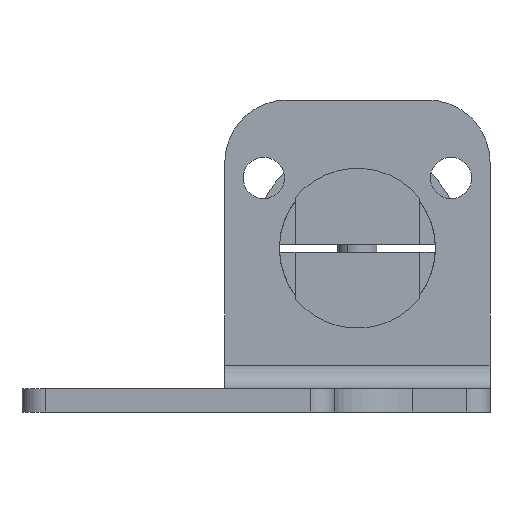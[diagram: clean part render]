
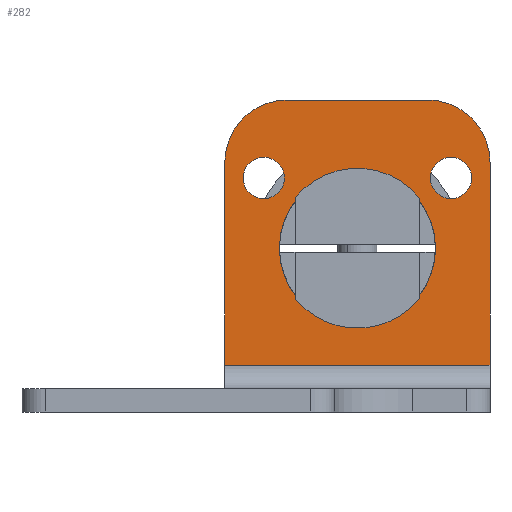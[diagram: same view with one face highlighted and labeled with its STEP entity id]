
A CAD part, left-side view. The second image highlights one B-rep face of the part: STEP entity #282.
In plain terms, the highlighted planar face has unit normal (-1, 0, 0).
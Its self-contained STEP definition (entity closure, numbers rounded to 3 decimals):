
#282 = ADVANCED_FACE( '', ( #446, #447, #448, #449 ), #450, .T. );
#446 = FACE_BOUND( '', #770, .T. );
#447 = FACE_BOUND( '', #771, .T. );
#448 = FACE_BOUND( '', #772, .T. );
#449 = FACE_OUTER_BOUND( '', #773, .T. );
#450 = PLANE( '', #774 );
#770 = EDGE_LOOP( '', ( #1173, #1174 ) );
#771 = EDGE_LOOP( '', ( #1175, #1176 ) );
#772 = EDGE_LOOP( '', ( #1177, #1178 ) );
#773 = EDGE_LOOP( '', ( #1179, #1180, #1181, #1182, #1183, #1184 ) );
#774 = AXIS2_PLACEMENT_3D( '', #1185, #1186, #1187 );
#1173 = ORIENTED_EDGE( '', *, *, #2288, .F. );
#1174 = ORIENTED_EDGE( '', *, *, #2275, .F. );
#1175 = ORIENTED_EDGE( '', *, *, #2286, .F. );
#1176 = ORIENTED_EDGE( '', *, *, #2279, .F. );
#1177 = ORIENTED_EDGE( '', *, *, #2284, .F. );
#1178 = ORIENTED_EDGE( '', *, *, #2283, .F. );
#1179 = ORIENTED_EDGE( '', *, *, #2306, .F. );
#1180 = ORIENTED_EDGE( '', *, *, #2290, .F. );
#1181 = ORIENTED_EDGE( '', *, *, #2298, .F. );
#1182 = ORIENTED_EDGE( '', *, *, #2294, .F. );
#1183 = ORIENTED_EDGE( '', *, *, #2310, .F. );
#1184 = ORIENTED_EDGE( '', *, *, #2307, .T. );
#1185 = CARTESIAN_POINT( '', ( -3., 17., -15. ) );
#1186 = DIRECTION( '', ( -1., 0., 0. ) );
#1187 = DIRECTION( '', ( 0., 0., -1. ) );
#2275 = EDGE_CURVE( '', #2667, #2663, #2669, .T. );
#2279 = EDGE_CURVE( '', #2675, #2671, #2677, .T. );
#2283 = EDGE_CURVE( '', #2683, #2679, #2685, .T. );
#2284 = EDGE_CURVE( '', #2679, #2683, #2686, .T. );
#2286 = EDGE_CURVE( '', #2671, #2675, #2688, .T. );
#2288 = EDGE_CURVE( '', #2663, #2667, #2690, .T. );
#2290 = EDGE_CURVE( '', #2692, #2693, #2694, .T. );
#2294 = EDGE_CURVE( '', #2700, #2701, #2702, .T. );
#2298 = EDGE_CURVE( '', #2701, #2692, #2708, .T. );
#2306 = EDGE_CURVE( '', #2693, #2711, #2722, .T. );
#2307 = EDGE_CURVE( '', #2723, #2711, #2724, .T. );
#2310 = EDGE_CURVE( '', #2723, #2700, #2728, .T. );
#2663 = VERTEX_POINT( '', #3285 );
#2667 = VERTEX_POINT( '', #3290 );
#2669 = CIRCLE( '', #3293, 10. );
#2671 = VERTEX_POINT( '', #3295 );
#2675 = VERTEX_POINT( '', #3300 );
#2677 = CIRCLE( '', #3303, 2.65 );
#2679 = VERTEX_POINT( '', #3305 );
#2683 = VERTEX_POINT( '', #3310 );
#2685 = CIRCLE( '', #3313, 2.65 );
#2686 = CIRCLE( '', #3314, 2.65 );
#2688 = CIRCLE( '', #3316, 2.65 );
#2690 = CIRCLE( '', #3318, 10. );
#2692 = VERTEX_POINT( '', #3320 );
#2693 = VERTEX_POINT( '', #3321 );
#2694 = CIRCLE( '', #3322, 8. );
#2700 = VERTEX_POINT( '', #3330 );
#2701 = VERTEX_POINT( '', #3331 );
#2702 = CIRCLE( '', #3332, 8. );
#2708 = LINE( '', #3340, #3341 );
#2711 = VERTEX_POINT( '', #3345 );
#2722 = LINE( '', #3360, #3361 );
#2723 = VERTEX_POINT( '', #3362 );
#2724 = LINE( '', #3363, #3364 );
#2728 = LINE( '', #3369, #3370 );
#3285 = CARTESIAN_POINT( '', ( -3., 0., -10. ) );
#3290 = CARTESIAN_POINT( '', ( -3., 0., 10. ) );
#3293 = AXIS2_PLACEMENT_3D( '', #4618, #4619, #4620 );
#3295 = CARTESIAN_POINT( '', ( -3., -12., 6.35 ) );
#3300 = CARTESIAN_POINT( '', ( -3., -12., 11.65 ) );
#3303 = AXIS2_PLACEMENT_3D( '', #4626, #4627, #4628 );
#3305 = CARTESIAN_POINT( '', ( -3., 12., 6.35 ) );
#3310 = CARTESIAN_POINT( '', ( -3., 12., 11.65 ) );
#3313 = AXIS2_PLACEMENT_3D( '', #4634, #4635, #4636 );
#3314 = AXIS2_PLACEMENT_3D( '', #4637, #4638, #4639 );
#3316 = AXIS2_PLACEMENT_3D( '', #4643, #4644, #4645 );
#3318 = AXIS2_PLACEMENT_3D( '', #4649, #4650, #4651 );
#3320 = CARTESIAN_POINT( '', ( -3., -9., 19. ) );
#3321 = CARTESIAN_POINT( '', ( -3., -17., 11. ) );
#3322 = AXIS2_PLACEMENT_3D( '', #4655, #4656, #4657 );
#3330 = CARTESIAN_POINT( '', ( -3., 17., 11. ) );
#3331 = CARTESIAN_POINT( '', ( -3., 9., 19. ) );
#3332 = AXIS2_PLACEMENT_3D( '', #4663, #4664, #4665 );
#3340 = CARTESIAN_POINT( '', ( -3., 9., 19. ) );
#3341 = VECTOR( '', #4671, 1. );
#3345 = CARTESIAN_POINT( '', ( -3., -17., -15. ) );
#3360 = CARTESIAN_POINT( '', ( -3., -17., 11. ) );
#3361 = VECTOR( '', #4683, 1. );
#3362 = CARTESIAN_POINT( '', ( -3., 17., -15. ) );
#3363 = CARTESIAN_POINT( '', ( -3., 17., -15. ) );
#3364 = VECTOR( '', #4684, 1. );
#3369 = CARTESIAN_POINT( '', ( -3., 17., -15. ) );
#3370 = VECTOR( '', #4689, 1. );
#4618 = CARTESIAN_POINT( '', ( -3., 0., 0. ) );
#4619 = DIRECTION( '', ( -1., 0., 0. ) );
#4620 = DIRECTION( '', ( 0., 0., -1. ) );
#4626 = CARTESIAN_POINT( '', ( -3., -12., 9. ) );
#4627 = DIRECTION( '', ( -1., 0., 0. ) );
#4628 = DIRECTION( '', ( 0., 0., -1. ) );
#4634 = CARTESIAN_POINT( '', ( -3., 12., 9. ) );
#4635 = DIRECTION( '', ( -1., 0., 0. ) );
#4636 = DIRECTION( '', ( 0., 0., -1. ) );
#4637 = CARTESIAN_POINT( '', ( -3., 12., 9. ) );
#4638 = DIRECTION( '', ( -1., 0., 0. ) );
#4639 = DIRECTION( '', ( 0., 0., -1. ) );
#4643 = CARTESIAN_POINT( '', ( -3., -12., 9. ) );
#4644 = DIRECTION( '', ( -1., 0., 0. ) );
#4645 = DIRECTION( '', ( 0., 0., -1. ) );
#4649 = CARTESIAN_POINT( '', ( -3., 0., 0. ) );
#4650 = DIRECTION( '', ( -1., 0., 0. ) );
#4651 = DIRECTION( '', ( 0., 0., -1. ) );
#4655 = CARTESIAN_POINT( '', ( -3., -9., 11. ) );
#4656 = DIRECTION( '', ( 1., 0., 0. ) );
#4657 = DIRECTION( '', ( 0., 0., 1. ) );
#4663 = CARTESIAN_POINT( '', ( -3., 9., 11. ) );
#4664 = DIRECTION( '', ( 1., 0., 0. ) );
#4665 = DIRECTION( '', ( 0., 1., 0. ) );
#4671 = DIRECTION( '', ( 0., -1., 0. ) );
#4683 = DIRECTION( '', ( 0., 0., -1. ) );
#4684 = DIRECTION( '', ( 0., -1., 0. ) );
#4689 = DIRECTION( '', ( 0., 0., 1. ) );
